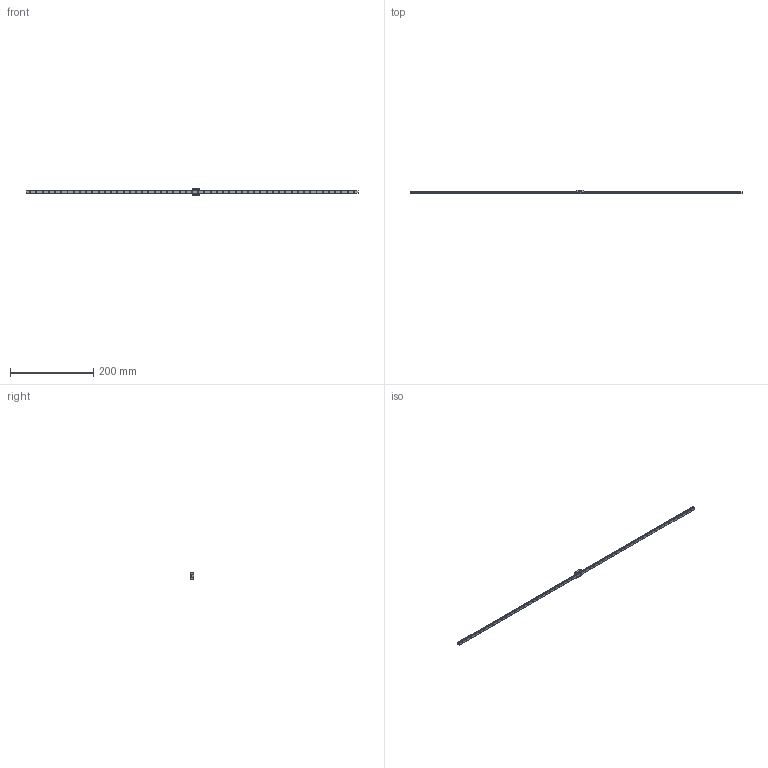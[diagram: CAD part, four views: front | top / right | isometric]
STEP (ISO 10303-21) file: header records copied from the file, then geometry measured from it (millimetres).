
FILE_DESCRIPTION(/* description */ ('STEP AP214'),/* implementation_level */ '2;1');
FILE_NAME(/* name */ 'SRS7SSS-800LTM_G10_0_400_0_0_0_1',/* time_stamp */ '2024-01-22T13:53:36+01:00',/* author */ ('License CC BY-ND 4.0'),/* organization */ ('CADENAS'),/* preprocessor_version */ 'ST-DEVELOPER v19.3',/* originating_system */ 'PARTsolutions',/* authorisation */ ' ');
FILE_SCHEMA (('AUTOMOTIVE_DESIGN {1 0 10303 214 3 1 1}'));
Length unit declared in the file: millimetre
Products named in the file (3): SRS7SSS-800LTM_G10_0_400_0_0_0_1; SRS7S80010 Track; SRS7SSS1 Slider
Assembly tree (2 placements, depth 2):
  SRS7SSS-800LTM_G10_0_400_0_0_0_1
    SRS7S80010 Track
    SRS7SSS1 Slider
Bounding box: 800 x 8 x 17 mm (x, y, z)
Volume: 24868.4 mm3; surface area: 21979.7 mm2
Topology: 2 solids, 2 shells, 284 faces, 667 edges, 442 vertices
Faces by surface type: plane 145, cylinder 135, cone 4
Full cylindrical faces by diameter (mm): 1.2 x2, 1.567 x2, 2.4 x53, 4.2 x53
Entity records: 7920 total; most frequent: DIRECTION 1407, CARTESIAN_POINT 1276, ORIENTED_EDGE 1098, AXIS2_PLACEMENT_3D 571, FACE_BOUND 561, EDGE_LOOP 559, EDGE_CURVE 549, VERTEX_POINT 440
